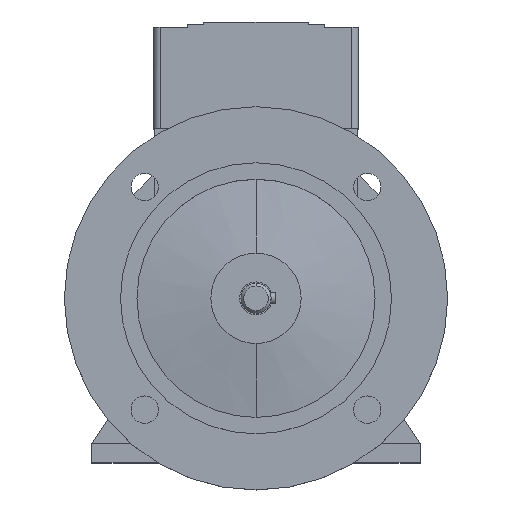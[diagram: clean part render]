
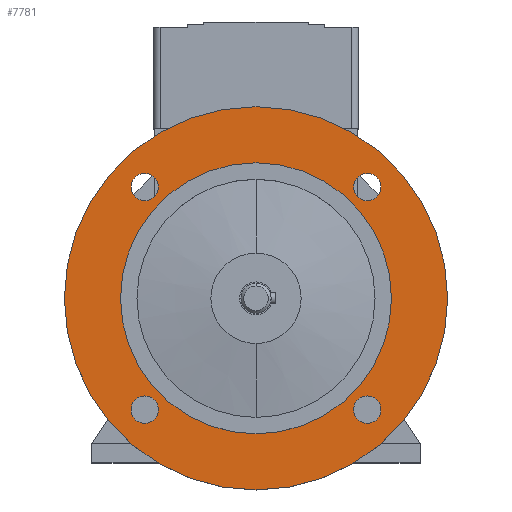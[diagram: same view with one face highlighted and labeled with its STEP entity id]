
A CAD part, top view. The second image highlights one B-rep face of the part: STEP entity #7781.
In plain terms, the highlighted planar face has unit normal (0, 0, 1).
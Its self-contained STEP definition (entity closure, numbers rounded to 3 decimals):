
#2349=CARTESIAN_POINT('',(-40.659,40.659,29.));
#2350=DIRECTION('',(0.,0.,-1.));
#2351=DIRECTION('',(-1.,0.,0.));
#2352=AXIS2_PLACEMENT_3D('',#2349,#2350,#2351);
#2354=CARTESIAN_POINT('',(-40.659,40.659,29.));
#2355=DIRECTION('',(0.,0.,-1.));
#2356=DIRECTION('',(1.,0.,0.));
#2357=AXIS2_PLACEMENT_3D('',#2354,#2355,#2356);
#2359=CARTESIAN_POINT('',(-40.659,-40.659,29.));
#2360=DIRECTION('',(0.,0.,-1.));
#2361=DIRECTION('',(-1.,0.,0.));
#2362=AXIS2_PLACEMENT_3D('',#2359,#2360,#2361);
#2364=CARTESIAN_POINT('',(-40.659,-40.659,29.));
#2365=DIRECTION('',(0.,0.,-1.));
#2366=DIRECTION('',(1.,0.,0.));
#2367=AXIS2_PLACEMENT_3D('',#2364,#2365,#2366);
#2369=CARTESIAN_POINT('',(40.659,-40.659,29.));
#2370=DIRECTION('',(0.,0.,-1.));
#2371=DIRECTION('',(-1.,0.,0.));
#2372=AXIS2_PLACEMENT_3D('',#2369,#2370,#2371);
#2374=CARTESIAN_POINT('',(40.659,-40.659,29.));
#2375=DIRECTION('',(0.,0.,-1.));
#2376=DIRECTION('',(1.,0.,0.));
#2377=AXIS2_PLACEMENT_3D('',#2374,#2375,#2376);
#2379=CARTESIAN_POINT('',(0.,0.,29.));
#2380=DIRECTION('',(0.,0.,1.));
#2381=DIRECTION('',(0.,1.,0.));
#2382=AXIS2_PLACEMENT_3D('',#2379,#2380,#2381);
#2384=CARTESIAN_POINT('',(0.,0.,29.));
#2385=DIRECTION('',(0.,0.,-1.));
#2386=DIRECTION('',(0.,1.,0.));
#2387=AXIS2_PLACEMENT_3D('',#2384,#2385,#2386);
#2389=CARTESIAN_POINT('',(40.659,40.659,29.));
#2390=DIRECTION('',(0.,0.,-1.));
#2391=DIRECTION('',(-1.,0.,0.));
#2392=AXIS2_PLACEMENT_3D('',#2389,#2390,#2391);
#2394=CARTESIAN_POINT('',(40.659,40.659,29.));
#2395=DIRECTION('',(0.,0.,-1.));
#2396=DIRECTION('',(1.,0.,0.));
#2397=AXIS2_PLACEMENT_3D('',#2394,#2395,#2396);
#2399=CARTESIAN_POINT('',(0.,0.,29.));
#2400=DIRECTION('',(0.,0.,-1.));
#2401=DIRECTION('',(-1.,0.,0.));
#2402=AXIS2_PLACEMENT_3D('',#2399,#2400,#2401);
#2404=CARTESIAN_POINT('',(0.,0.,29.));
#2405=DIRECTION('',(0.,0.,-1.));
#2406=DIRECTION('',(1.,0.,0.));
#2407=AXIS2_PLACEMENT_3D('',#2404,#2405,#2406);
#3559=CARTESIAN_POINT('',(0.,70.,29.));
#3561=VERTEX_POINT('',#3559);
#3563=CARTESIAN_POINT('',(0.,-70.,29.));
#3565=VERTEX_POINT('',#3563);
#3570=CARTESIAN_POINT('',(35.659,40.659,29.));
#3571=CARTESIAN_POINT('',(45.659,40.659,29.));
#3572=VERTEX_POINT('',#3570);
#3573=VERTEX_POINT('',#3571);
#3578=CARTESIAN_POINT('',(35.659,-40.659,29.));
#3579=CARTESIAN_POINT('',(45.659,-40.659,29.));
#3580=VERTEX_POINT('',#3578);
#3581=VERTEX_POINT('',#3579);
#3586=CARTESIAN_POINT('',(-45.659,-40.659,29.));
#3587=CARTESIAN_POINT('',(-35.659,-40.659,29.));
#3588=VERTEX_POINT('',#3586);
#3589=VERTEX_POINT('',#3587);
#3594=CARTESIAN_POINT('',(-45.659,40.659,29.));
#3595=CARTESIAN_POINT('',(-35.659,40.659,29.));
#3596=VERTEX_POINT('',#3594);
#3597=VERTEX_POINT('',#3595);
#3606=CARTESIAN_POINT('',(-49.5,0.,29.));
#3607=CARTESIAN_POINT('',(49.5,0.,29.));
#3608=VERTEX_POINT('',#3606);
#3609=VERTEX_POINT('',#3607);
#7742=CARTESIAN_POINT('',(0.,0.,29.));
#7743=DIRECTION('',(0.,0.,-1.));
#7744=DIRECTION('',(0.,-1.,0.));
#7745=AXIS2_PLACEMENT_3D('',#7742,#7743,#7744);
#7746=PLANE('',#7745);
#7748=ORIENTED_EDGE('',*,*,#7747,.F.);
#7750=ORIENTED_EDGE('',*,*,#7749,.T.);
#7751=EDGE_LOOP('',(#7748,#7750));
#7752=FACE_OUTER_BOUND('',#7751,.F.);
#7753=ORIENTED_EDGE('',*,*,#7732,.F.);
#7755=ORIENTED_EDGE('',*,*,#7754,.F.);
#7756=EDGE_LOOP('',(#7753,#7755));
#7757=FACE_BOUND('',#7756,.F.);
#7759=ORIENTED_EDGE('',*,*,#7758,.F.);
#7761=ORIENTED_EDGE('',*,*,#7760,.F.);
#7762=EDGE_LOOP('',(#7759,#7761));
#7763=FACE_BOUND('',#7762,.F.);
#7765=ORIENTED_EDGE('',*,*,#7764,.F.);
#7767=ORIENTED_EDGE('',*,*,#7766,.F.);
#7768=EDGE_LOOP('',(#7765,#7767));
#7769=FACE_BOUND('',#7768,.F.);
#7771=ORIENTED_EDGE('',*,*,#7770,.F.);
#7773=ORIENTED_EDGE('',*,*,#7772,.F.);
#7774=EDGE_LOOP('',(#7771,#7773));
#7775=FACE_BOUND('',#7774,.F.);
#7777=ORIENTED_EDGE('',*,*,#7776,.F.);
#7778=ORIENTED_EDGE('',*,*,#5324,.F.);
#7779=EDGE_LOOP('',(#7777,#7778));
#7780=FACE_BOUND('',#7779,.F.);
#7781=ADVANCED_FACE('',(#7752,#7757,#7763,#7769,#7775,#7780),#7746,.F.);
#2353=CIRCLE('',#2352,5.);
#2358=CIRCLE('',#2357,5.);
#2363=CIRCLE('',#2362,5.);
#2368=CIRCLE('',#2367,5.);
#2373=CIRCLE('',#2372,5.);
#2378=CIRCLE('',#2377,5.);
#2383=CIRCLE('',#2382,70.);
#2388=CIRCLE('',#2387,70.);
#2393=CIRCLE('',#2392,5.);
#2398=CIRCLE('',#2397,5.);
#2403=CIRCLE('',#2402,49.5);
#2408=CIRCLE('',#2407,49.5);
#5324=EDGE_CURVE('',#3609,#3608,#2408,.T.);
#7732=EDGE_CURVE('',#3596,#3597,#2353,.T.);
#7747=EDGE_CURVE('',#3561,#3565,#2383,.T.);
#7749=EDGE_CURVE('',#3561,#3565,#2388,.T.);
#7754=EDGE_CURVE('',#3597,#3596,#2358,.T.);
#7758=EDGE_CURVE('',#3588,#3589,#2363,.T.);
#7760=EDGE_CURVE('',#3589,#3588,#2368,.T.);
#7764=EDGE_CURVE('',#3580,#3581,#2373,.T.);
#7766=EDGE_CURVE('',#3581,#3580,#2378,.T.);
#7770=EDGE_CURVE('',#3572,#3573,#2393,.T.);
#7772=EDGE_CURVE('',#3573,#3572,#2398,.T.);
#7776=EDGE_CURVE('',#3608,#3609,#2403,.T.);
